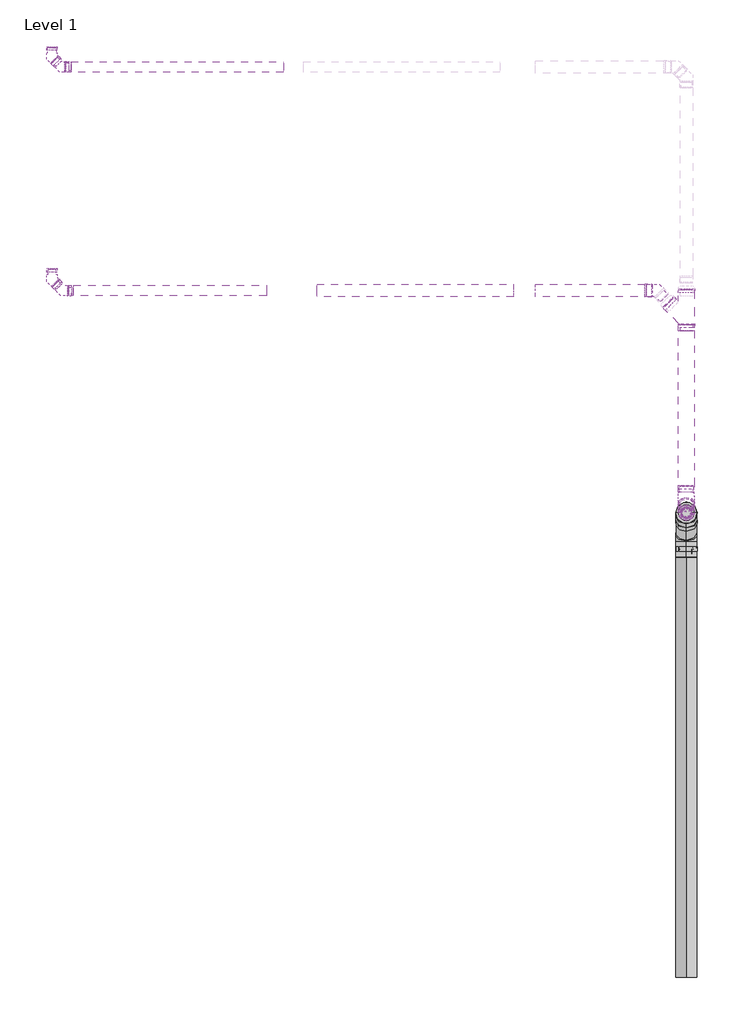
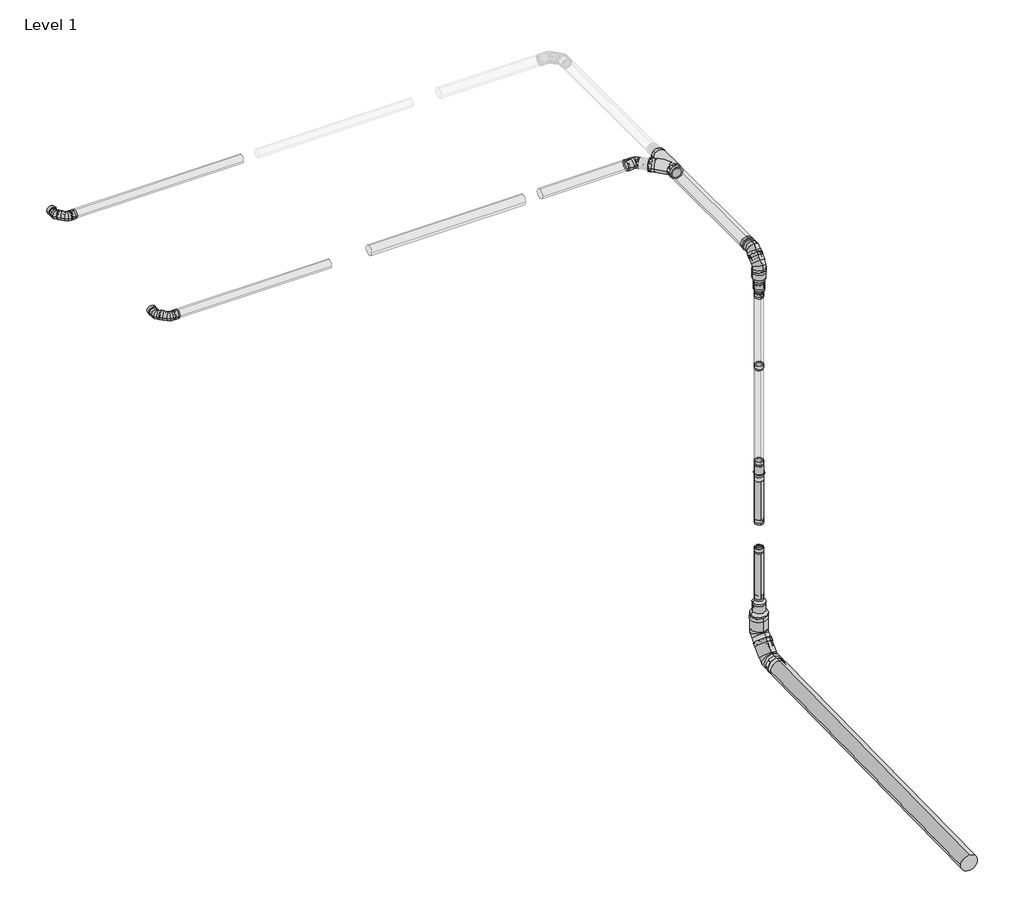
# One storey, part 1 of 4: 68 pipe fittings, 10 pipe segments.
"""IFC4 building model written with IfcOpenShell, lengths in millimetres."""

from ifc_helpers import new_model, si_unit, point, frame, frame_2d, origin, place, context, project, spatial, circle_curve, trimmed, segment, composite_curve, outline, extrude, transform, mapped, element, save
from components import double_bend_3e9cfc50, double_bend_64b3920a, double_bend_6fd856f4, equal_f502bca4, std_98267aa1, std_b06a406c, std_nested_457d7e35, std_nested_42e1da43, std_nested_0b312e5a, std_nested_a7162979, std_nested_3dcc5080, std_nested_46ab66b3, std_nested_9446fb41, std_nested_ff61fb87, std_nested_f8058470, std_nested_a1955cf2, std_nested_11fffc4d, std_nested_bf630df5, std_nested_90d89c33, std_nested_c8d892e3, std_nested_4c6f7b31, std_nested_d6aa968b, std_nested_7b649233, std_nested_0b754541, std_nested_c6ab956b, std_nested_eab692b6, std_nested_b89ce39c, std_nested_ddf6da25, std_nested_2c747ea0, std_nested_bd9adc5b, std_nested_d6c17223, std_nested_f2eee662, std_nested_7e47c5b0, std_nested_5f0271a8, std_nested_e47e38a7, std_nested_4907b57b, with_clamp_eb68ef93

model = new_model("IFC4")

# Units and contexts
model_context = context("Model", 3, world=origin())
ifc_project = project(units=[si_unit("LENGTHUNIT", "METRE", prefix="MILLI")], contexts=[model_context])

# Site, building, storey
site = spatial("IfcSite", under=ifc_project)
building = spatial("IfcBuilding", under=site)
storey = spatial("IfcBuildingStorey", under=building, Name="Level 1", Elevation=0.0)

# Pipe fittings
placement = place(None, origin())
double_bend_shape = double_bend_3e9cfc50(model_context)
element("IfcPipeFitting", 1, ObjectType="PIF_ST_UN_GM-X compound pipe multi-bend_ACO : double bend", at=placement, inside=storey, context=model_context, shape_type="MappedRepresentation", body=[
    mapped(double_bend_shape, transform((-17814.684142, 5223.6615366, 6367.4522786), x_axis=(0.0, -1.0, 0.0), y_axis=(1.0, 0.0, 0.0), z_axis=(0.0, 0.0, 1.0))),
])
double_bend_2_shape = double_bend_64b3920a(model_context)
element("IfcPipeFitting", 2, ObjectType="PIF_ST_UN_GM-X compound pipe multi-bend_ACO : double bend", at=placement, inside=storey, context=model_context, shape_type="MappedRepresentation", body=[
    mapped(double_bend_2_shape, transform((-17814.684142, 2334.1079251, 6367.4522786), x_axis=(0.0, -1.0, 0.0), y_axis=(1.0, 0.0, 0.0), z_axis=(0.0, 0.0, 1.0))),
])
double_bend_3_shape = double_bend_6fd856f4(model_context)
element("IfcPipeFitting", 3, ObjectType="PIF_ST_UN_GM-X compound pipe multi-bend_ACO : double bend", at=placement, inside=storey, context=model_context, shape_type="MappedRepresentation", body=[
    mapped(double_bend_3_shape, transform((-9614.684142, -535.228078, -500.0), x_axis=(0.0, 0.0, -1.0), y_axis=(0.0, -1.0, 0.0), z_axis=(-1.0, 0.0, 0.0))),
])
equal_shape = equal_f502bca4(model_context)
element("IfcPipeFitting", 4, ObjectType="PIF_ST_UN_GM-X compound pipe multi-tee_ACO : equal", at=placement, inside=storey, context=model_context, shape_type="MappedRepresentation", body=[
    mapped(equal_shape, transform((-9614.684142, 1952.2702632, 6367.4522786), x_axis=(0.0, 1.0, 0.0), y_axis=(-1.0, 0.0, 0.0), z_axis=(0.0, 0.0, 1.0))),
])
std_shape = std_98267aa1(model_context)
element("IfcPipeFitting", 5, ObjectType="PIF_ST_UN_GM-X compound pipe multi-optimiser (transition)_ACO : std", at=placement, inside=storey, context=model_context, shape_type="MappedRepresentation", body=[
    mapped(std_shape, transform((-9614.684142, -535.228078, 5629.2270551), x_axis=(0.0, 0.0, 1.0), y_axis=(1.0, 0.0, 0.0), z_axis=(0.0, 1.0, 0.0))),
])
std_2_shape = std_b06a406c(model_context)
element("IfcPipeFitting", 6, ObjectType="PIF_ST_UN_GM-X compound pipe down-pipe (union)_ACO : std", at=placement, inside=storey, context=model_context, shape_type="MappedRepresentation", body=[
    mapped(std_2_shape, transform((-9614.684142, -535.228078, 2703.7674915), x_axis=(0.0, 0.0, 1.0), y_axis=(-1.0, 0.0, 0.0), z_axis=(0.0, -1.0, 0.0))),
])
std_nested_shape = std_nested_457d7e35(model_context)
element("IfcPipeFitting", 7, ObjectType="ZZZ_do not use_PIF_GEN_WPB_GM-X (compound) pipe seal_ACO : std (nested)", at=placement, inside=storey, context=model_context, shape_type="MappedRepresentation", body=[
    mapped(std_nested_shape, transform((-17564.8191349, 5223.6615366, 6367.4522786), x_axis=(0.0, -1.0, 0.0), y_axis=(0.0, 0.0, -1.0), z_axis=(1.0, 0.0, 0.0))),
])
element("IfcPipeFitting", 8, ObjectType="ZZZ_do not use_PIF_GEN_WPB_GM-X (compound) pipe seal_ACO : std (nested)", at=placement, inside=storey, context=model_context, shape_type="MappedRepresentation", body=[
    mapped(std_nested_shape, transform((-9614.684142, -535.228078, 4373.7890494), x_axis=(1.0, 0.0, 0.0), y_axis=(0.0, -1.0, 0.0), z_axis=(0.0, 0.0, -1.0))),
])
element("IfcPipeFitting", 9, ObjectType="ZZZ_do not use_PIF_GEN_WPB_GM-X (compound) pipe seal_ACO : std (nested)", at=placement, inside=storey, context=model_context, shape_type="MappedRepresentation", body=[
    mapped(std_nested_shape, transform((-9614.684142, -535.228078, 2443.7674915), x_axis=(-1.0, 0.0, 0.0), y_axis=(0.0, 1.0, 0.0), z_axis=(0.0, 0.0, -1.0))),
])
element("IfcPipeFitting", 10, ObjectType="ZZZ_do not use_PIF_GEN_WPB_GM-X (compound) pipe seal_ACO : std (nested)", at=placement, inside=storey, context=model_context, shape_type="MappedRepresentation", body=[
    mapped(std_nested_shape, transform((-9614.684142, -535.228078, 1180.0371081), x_axis=(1.0, 0.0, 0.0), y_axis=(0.0, -1.0, 0.0), z_axis=(0.0, 0.0, -1.0))),
])
element("IfcPipeFitting", 11, ObjectType="ZZZ_do not use_PIF_GEN_WPB_GM-X (compound) pipe seal_ACO : std (nested)", at=placement, inside=storey, context=model_context, shape_type="MappedRepresentation", body=[
    mapped(std_nested_shape, transform((-9614.684142, -535.228078, 5629.2270551), x_axis=(0.0, -1.0, 0.0), y_axis=(-1.0, 0.0, 0.0), z_axis=(0.0, 0.0, -1.0))),
])
std_nested_2_shape = std_nested_42e1da43(model_context)
element("IfcPipeFitting", 12, ObjectType="ZZZ_do not use_PIF_GEN_WPB_GM-X (compound) pipe seal_ACO : std (nested)", at=placement, inside=storey, context=model_context, shape_type="MappedRepresentation", body=[
    mapped(std_nested_2_shape, transform((-17814.684142, 5473.5265437, 6367.4522786), x_axis=(1.0, 0.0, 0.0), y_axis=(0.0, 0.0, -1.0), z_axis=(0.0, 1.0, 0.0))),
])
element("IfcPipeFitting", 13, ObjectType="ZZZ_do not use_PIF_GEN_WPB_GM-X (compound) pipe seal_ACO : std (nested)", at=placement, inside=storey, context=model_context, shape_type="MappedRepresentation", body=[
    mapped(std_nested_2_shape, transform((-17776.5003758, 5311.3427775, 6367.4522786), x_axis=(0.707106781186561, 0.707106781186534, 0.0), y_axis=(0.0, 0.0, -1.0), z_axis=(-0.707106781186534, 0.707106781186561, 0.0))),
])
element("IfcPipeFitting", 14, ObjectType="ZZZ_do not use_PIF_GEN_WPB_GM-X (compound) pipe seal_ACO : std (nested)", at=placement, inside=storey, context=model_context, shape_type="MappedRepresentation", body=[
    mapped(std_nested_2_shape, transform((-9614.684142, -535.228078, 2773.7674915), x_axis=(1.0, 0.0, 0.0), y_axis=(0.0, 1.0, 0.0), z_axis=(0.0, 0.0, 1.0))),
])
element("IfcPipeFitting", 15, ObjectType="ZZZ_do not use_PIF_GEN_WPB_GM-X (compound) pipe seal_ACO : std (nested)", at=placement, inside=storey, context=model_context, shape_type="MappedRepresentation", body=[
    mapped(std_nested_2_shape, transform((-9614.684142, -535.228078, 1760.0371081), x_axis=(-1.0, 0.0, 0.0), y_axis=(0.0, -1.0, 0.0), z_axis=(0.0, 0.0, 1.0))),
])
std_nested_3_shape = std_nested_0b312e5a(model_context)
element("IfcPipeFitting", 16, ObjectType="ZZZ_do not use_PIF_GEN_WPB_GM-X (compound) pipe seal_ACO : std (nested)", at=placement, inside=storey, context=model_context, shape_type="MappedRepresentation", body=[
    mapped(std_nested_3_shape, transform((-9614.684142, -1105.7594865, -509.9586628), x_axis=(0.0, 0.017452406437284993, -0.9998476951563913), y_axis=(1.0000000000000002, 0.0, 0.0), z_axis=(0.0, -0.9998476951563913, -0.017452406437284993))),
])
std_nested_4_shape = std_nested_a7162979(model_context)
element("IfcPipeFitting", 17, ObjectType="ZZZ_do not use_PIF_GEN_WPB_GM-X (compound) pipe seal_ACO : std (nested)", at=placement, inside=storey, context=model_context, shape_type="MappedRepresentation", body=[
    mapped(std_nested_4_shape, transform((-9614.684142, -535.228078, 85.6183164), x_axis=(0.0, -1.0, 0.0), y_axis=(1.0, 0.0, 0.0), z_axis=(0.0, 0.0, 1.0))),
])
element("IfcPipeFitting", 18, ObjectType="ZZZ_do not use_PIF_GEN_WPB_GM-X (compound) pipe seal_ACO : std (nested)", at=placement, inside=storey, context=model_context, shape_type="MappedRepresentation", body=[
    mapped(std_nested_4_shape, transform((-9614.684142, -639.102831, -303.2854002), x_axis=(0.0, -0.7132504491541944, 0.7009092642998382), y_axis=(1.0000000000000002, 0.0, 0.0), z_axis=(0.0, 0.7009092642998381, 0.7132504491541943))),
])
std_nested_5_shape = std_nested_3dcc5080(model_context)
element("IfcPipeFitting", 19, ObjectType="ZZZ_do not use_PIF_GEN_WPB_GM-X (compound) pipe seal_ACO : std (nested)", at=placement, inside=storey, context=model_context, shape_type="MappedRepresentation", body=[
    mapped(std_nested_5_shape, transform((-9614.684142, 2342.2702632, 6367.4522786), x_axis=(1.0, 0.0, 0.0), y_axis=(0.0, 0.0, -1.0), z_axis=(0.0, 1.0, 0.0))),
])
element("IfcPipeFitting", 20, ObjectType="ZZZ_do not use_PIF_GEN_WPB_GM-X (compound) pipe seal_ACO : std (nested)", at=placement, inside=storey, context=model_context, shape_type="MappedRepresentation", body=[
    mapped(std_nested_5_shape, transform((-9840.9583119, 2178.5444332, 6367.4522786), x_axis=(0.7071067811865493, 0.7071067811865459, 0.0), y_axis=(0.0, 0.0, -1.0000000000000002), z_axis=(-0.7071067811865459, 0.7071067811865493, 0.0))),
])
element("IfcPipeFitting", 21, ObjectType="ZZZ_do not use_PIF_GEN_WPB_GM-X (compound) pipe seal_ACO : std (nested)", at=placement, inside=storey, context=model_context, shape_type="MappedRepresentation", body=[
    mapped(std_nested_5_shape, transform((-9614.684142, -192.0028546, 6367.4522786), x_axis=(0.0, 0.0, -1.0), y_axis=(-1.0, 0.0, 0.0), z_axis=(0.0, 1.0, 0.0))),
])
element("IfcPipeFitting", 22, ObjectType="ZZZ_do not use_PIF_GEN_WPB_GM-X (compound) pipe seal_ACO : std (nested)", at=placement, inside=storey, context=model_context, shape_type="MappedRepresentation", body=[
    mapped(std_nested_5_shape, transform((-9614.684142, -418.131195, 6306.9239381), x_axis=(0.0, 0.707106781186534, -0.707106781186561), y_axis=(-1.0, 0.0, 0.0), z_axis=(0.0, 0.707106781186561, 0.707106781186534))),
])
element("IfcPipeFitting", 23, ObjectType="ZZZ_do not use_PIF_GEN_WPB_GM-X (compound) pipe seal_ACO : std (nested)", at=placement, inside=storey, context=model_context, shape_type="MappedRepresentation", body=[
    mapped(std_nested_5_shape, transform((-9614.684142, -535.228078, 6104.2270551), x_axis=(-1.0, 0.0, 0.0), y_axis=(0.0, -1.0, 0.0), z_axis=(0.0, 0.0, 1.0))),
])
std_nested_6_shape = std_nested_46ab66b3(model_context)
element("IfcPipeFitting", 24, ObjectType="ZZZ_do not use_PIF_GEN_WPB_GM-X (compound) pipe seal_ACO : std (nested)", at=placement, inside=storey, context=model_context, shape_type="MappedRepresentation", body=[
    mapped(std_nested_6_shape, transform((-10131.5218038, 2334.1079251, 6367.4522786), x_axis=(0.0, 1.0, 0.0), y_axis=(0.0, 0.0, -1.0000000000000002), z_axis=(-1.0, 0.0, 0.0))),
])
element("IfcPipeFitting", 25, ObjectType="ZZZ_do not use_PIF_GEN_WPB_GM-X (compound) pipe seal_ACO : std (nested)", at=placement, inside=storey, context=model_context, shape_type="MappedRepresentation", body=[
    mapped(std_nested_6_shape, transform((-9614.684142, -535.228078, 5869.2270551), x_axis=(-1.0, 0.0, 0.0), y_axis=(0.0, -1.0, 0.0), z_axis=(0.0, 0.0, 1.0))),
])
std_nested_7_shape = std_nested_9446fb41(model_context)
element("IfcPipeFitting", 26, ObjectType="ZZZ_do not use_PIF_GEN_WPB_GM-X (compound) pipe seal_ACO : std (nested)", at=placement, inside=storey, context=model_context, shape_type="MappedRepresentation", body=[
    mapped(std_nested_7_shape, transform((-9614.684142, 1812.2702632, 6367.4522786), x_axis=(0.0, 0.0, -1.0), y_axis=(1.0, 0.0, 0.0), z_axis=(0.0, -1.0, 0.0))),
])
std_nested_8_shape = std_nested_ff61fb87(model_context)
element("IfcPipeFitting", 27, ObjectType="ZZZ_do not use_PIF_ST_WPB_GM-X compound pipe clamp_ACO : std (nested)", at=placement, inside=storey, context=model_context, shape_type="MappedRepresentation", body=[
    mapped(std_nested_8_shape, transform((-17564.8191349, 5223.6615366, 6367.4522786), x_axis=(0.0, -1.0, 0.0), y_axis=(0.0, 0.0, -1.0), z_axis=(1.0, 0.0, 0.0))),
])
element("IfcPipeFitting", 28, ObjectType="ZZZ_do not use_PIF_ST_WPB_GM-X compound pipe clamp_ACO : std (nested)", at=placement, inside=storey, context=model_context, shape_type="MappedRepresentation", body=[
    mapped(std_nested_8_shape, transform((-9614.684142, -535.228078, 4373.7890494), x_axis=(1.0, 0.0, 0.0), y_axis=(0.0, -1.0, 0.0), z_axis=(0.0, 0.0, -1.0))),
])
element("IfcPipeFitting", 29, ObjectType="ZZZ_do not use_PIF_ST_WPB_GM-X compound pipe clamp_ACO : std (nested)", at=placement, inside=storey, context=model_context, shape_type="MappedRepresentation", body=[
    mapped(std_nested_8_shape, transform((-9614.684142, -535.228078, 1180.0371081), x_axis=(1.0, 0.0, 0.0), y_axis=(0.0, -1.0, 0.0), z_axis=(0.0, 0.0, -1.0))),
])
element("IfcPipeFitting", 30, ObjectType="ZZZ_do not use_PIF_ST_WPB_GM-X compound pipe clamp_ACO : std (nested)", at=placement, inside=storey, context=model_context, shape_type="MappedRepresentation", body=[
    mapped(std_nested_8_shape, transform((-9614.684142, -535.228078, 5629.2270551), x_axis=(0.0, -1.0, 0.0), y_axis=(-1.0, 0.0, 0.0), z_axis=(0.0, 0.0, -1.0))),
])
element("IfcPipeFitting", 31, ObjectType="ZZZ_do not use_PIF_GEN_WPB_GM-X (compound) pipe seal_ACO : std (nested)", at=placement, inside=storey, context=model_context, shape_type="MappedRepresentation", body=[
    mapped(std_nested_5_shape, transform((-9614.684142, -535.228078, 290.6183164), x_axis=(1.0, 0.0, 0.0), y_axis=(0.0, 1.0, 0.0), z_axis=(0.0, 0.0, 1.0))),
])
element("IfcPipeFitting", 32, ObjectType="ZZZ_do not use_PIF_GEN_WPB_GM-X (compound) pipe seal_ACO : std (nested)", at=placement, inside=storey, context=model_context, shape_type="MappedRepresentation", body=[
    mapped(std_nested_2_shape, transform((-9614.684142, -535.228078, 460.6183164), x_axis=(1.0, 0.0, 0.0), y_axis=(0.0, 1.0, 0.0), z_axis=(0.0, 0.0, 1.0))),
])
std_nested_9_shape = std_nested_f8058470(model_context)
element("IfcPipeFitting", 33, ObjectType="ZZZ_do not use_PIF_GEN_WPB_GM-X (compound) pipe seal_ACO : std (nested)", at=placement, inside=storey, context=model_context, shape_type="MappedRepresentation", body=[
    mapped(std_nested_9_shape, transform((-17814.684142, 2607.2313628, 6367.4522786), x_axis=(1.0, 0.0, 0.0), y_axis=(0.0, 0.0, -1.0), z_axis=(0.0, 1.0, 0.0))),
])
element("IfcPipeFitting", 34, ObjectType="ZZZ_do not use_PIF_GEN_WPB_GM-X (compound) pipe seal_ACO : std (nested)", at=placement, inside=storey, context=model_context, shape_type="MappedRepresentation", body=[
    mapped(std_nested_9_shape, transform((-17764.3381391, 2426.38536, 6367.4522786), x_axis=(0.707106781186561, 0.707106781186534, 0.0), y_axis=(0.0, 0.0, -1.0), z_axis=(-0.707106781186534, 0.707106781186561, 0.0))),
])
std_nested_10_shape = std_nested_a1955cf2(model_context)
element("IfcPipeFitting", 35, ObjectType="ZZZ_do not use_PIF_GEN_WPB_GM-X (compound) pipe seal_ACO : std (nested)", at=placement, inside=storey, context=model_context, shape_type="MappedRepresentation", body=[
    mapped(std_nested_10_shape, transform((-17540.8607042, 2334.1079251, 6367.4522786), x_axis=(0.0, -1.0, 0.0), y_axis=(0.0, 0.0, -1.0), z_axis=(1.0, 0.0, 0.0))),
])
std_nested_11_shape = std_nested_11fffc4d(model_context)
element("IfcPipeFitting", 36, ObjectType="ZZZ_do not use_PIF_ST_WPB_GM-X compound pipe clamp_ACO : std (nested)", at=placement, inside=storey, context=model_context, shape_type="MappedRepresentation", body=[
    mapped(std_nested_11_shape, transform((-17540.8607042, 2334.1079251, 6367.4522786), x_axis=(0.0, -1.0, 0.0), y_axis=(0.0, 0.0, -1.0), z_axis=(1.0, 0.0, 0.0))),
])
std_nested_12_shape = std_nested_bf630df5(model_context)
element("IfcPipeFitting", 37, ObjectType="ZZZ_do not use_PIF_ST_WPB_GM-X compound pipe clamp_ACO : std (nested)", at=placement, inside=storey, context=model_context, shape_type="MappedRepresentation", body=[
    mapped(std_nested_12_shape, transform((-17814.684142, 5473.5265437, 6367.4522786), x_axis=(1.0, 0.0, 0.0), y_axis=(0.0, 0.0, -1.0), z_axis=(0.0, 1.0, 0.0))),
])
element("IfcPipeFitting", 38, ObjectType="ZZZ_do not use_PIF_ST_WPB_GM-X compound pipe clamp_ACO : std (nested)", at=placement, inside=storey, context=model_context, shape_type="MappedRepresentation", body=[
    mapped(std_nested_12_shape, transform((-17776.5003758, 5311.3427775, 6367.4522786), x_axis=(0.707106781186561, 0.707106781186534, 0.0), y_axis=(0.0, 0.0, -1.0), z_axis=(-0.707106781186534, 0.707106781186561, 0.0))),
])
element("IfcPipeFitting", 39, ObjectType="ZZZ_do not use_PIF_ST_WPB_GM-X compound pipe clamp_ACO : std (nested)", at=placement, inside=storey, context=model_context, shape_type="MappedRepresentation", body=[
    mapped(std_nested_12_shape, transform((-9614.684142, -535.228078, 2773.7674915), x_axis=(1.0, 0.0, 0.0), y_axis=(0.0, 1.0, 0.0), z_axis=(0.0, 0.0, 1.0))),
])
element("IfcPipeFitting", 40, ObjectType="ZZZ_do not use_PIF_ST_WPB_GM-X compound pipe clamp_ACO : std (nested)", at=placement, inside=storey, context=model_context, shape_type="MappedRepresentation", body=[
    mapped(std_nested_12_shape, transform((-9614.684142, -535.228078, 1760.0371081), x_axis=(-1.0, 0.0, 0.0), y_axis=(0.0, -1.0, 0.0), z_axis=(0.0, 0.0, 1.0))),
])
element("IfcPipeFitting", 41, ObjectType="ZZZ_do not use_PIF_ST_WPB_GM-X compound pipe clamp_ACO : std (nested)", at=placement, inside=storey, context=model_context, shape_type="MappedRepresentation", body=[
    mapped(std_nested_12_shape, transform((-17814.684142, 2607.2313628, 6367.4522786), x_axis=(1.0, 0.0, 0.0), y_axis=(0.0, 0.0, -1.0), z_axis=(0.0, 1.0, 0.0))),
])
element("IfcPipeFitting", 42, ObjectType="ZZZ_do not use_PIF_ST_WPB_GM-X compound pipe clamp_ACO : std (nested)", at=placement, inside=storey, context=model_context, shape_type="MappedRepresentation", body=[
    mapped(std_nested_12_shape, transform((-17764.3381391, 2426.38536, 6367.4522786), x_axis=(0.707106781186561, 0.707106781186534, 0.0), y_axis=(0.0, 0.0, -1.0), z_axis=(-0.707106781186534, 0.707106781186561, 0.0))),
])
std_nested_13_shape = std_nested_90d89c33(model_context)
element("IfcPipeFitting", 43, ObjectType="ZZZ_do not use_PIF_ST_WPB_GM-X compound pipe clamp_ACO : std (nested)", at=placement, inside=storey, context=model_context, shape_type="MappedRepresentation", body=[
    mapped(std_nested_13_shape, transform((-10131.5218038, 2334.1079251, 6367.4522786), x_axis=(0.0, 1.0, 0.0), y_axis=(0.0, 0.0, -1.0000000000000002), z_axis=(-1.0, 0.0, 0.0))),
])
element("IfcPipeFitting", 44, ObjectType="ZZZ_do not use_PIF_ST_WPB_GM-X compound pipe clamp_ACO : std (nested)", at=placement, inside=storey, context=model_context, shape_type="MappedRepresentation", body=[
    mapped(std_nested_13_shape, transform((-9614.684142, -535.228078, 5869.2270551), x_axis=(-1.0, 0.0, 0.0), y_axis=(0.0, -1.0, 0.0), z_axis=(0.0, 0.0, 1.0))),
])
std_nested_14_shape = std_nested_c8d892e3(model_context)
element("IfcPipeFitting", 45, ObjectType="ZZZ_do not use_PIF_ST_WPB_GM-X compound pipe clamp_ACO : std (nested)", at=placement, inside=storey, context=model_context, shape_type="MappedRepresentation", body=[
    mapped(std_nested_14_shape, transform((-9614.684142, -535.228078, 85.6183164), x_axis=(0.0, -1.0, 0.0), y_axis=(1.0, 0.0, 0.0), z_axis=(0.0, 0.0, 1.0))),
])
element("IfcPipeFitting", 46, ObjectType="ZZZ_do not use_PIF_ST_WPB_GM-X compound pipe clamp_ACO : std (nested)", at=placement, inside=storey, context=model_context, shape_type="MappedRepresentation", body=[
    mapped(std_nested_14_shape, transform((-9614.684142, -639.102831, -303.2854002), x_axis=(0.0, -0.7132504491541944, 0.7009092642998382), y_axis=(1.0000000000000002, 0.0, 0.0), z_axis=(0.0, 0.7009092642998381, 0.7132504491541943))),
])
std_nested_15_shape = std_nested_4c6f7b31(model_context)
element("IfcPipeFitting", 47, ObjectType="ZZZ_do not use_PIF_ST_WPB_GM-X compound pipe clamp_ACO : std (nested)", at=placement, inside=storey, context=model_context, shape_type="MappedRepresentation", body=[
    mapped(std_nested_15_shape, transform((-9614.684142, -1105.7594865, -509.9586628), x_axis=(0.0, 0.017452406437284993, -0.9998476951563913), y_axis=(1.0000000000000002, 0.0, 0.0), z_axis=(0.0, -0.9998476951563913, -0.017452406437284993))),
])
std_nested_16_shape = std_nested_d6aa968b(model_context)
element("IfcPipeFitting", 48, ObjectType="ZZZ_do not use_PIF_ST_WPB_GM-X compound pipe clamp_ACO : std (nested)", at=placement, inside=storey, context=model_context, shape_type="MappedRepresentation", body=[
    mapped(std_nested_16_shape, transform((-9614.684142, 2342.2702632, 6367.4522786), x_axis=(1.0, 0.0, 0.0), y_axis=(0.0, 0.0, -1.0), z_axis=(0.0, 1.0, 0.0))),
])
element("IfcPipeFitting", 49, ObjectType="ZZZ_do not use_PIF_ST_WPB_GM-X compound pipe clamp_ACO : std (nested)", at=placement, inside=storey, context=model_context, shape_type="MappedRepresentation", body=[
    mapped(std_nested_16_shape, transform((-9840.9583119, 2178.5444332, 6367.4522786), x_axis=(0.7071067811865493, 0.7071067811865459, 0.0), y_axis=(0.0, 0.0, -1.0000000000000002), z_axis=(-0.7071067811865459, 0.7071067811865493, 0.0))),
])
element("IfcPipeFitting", 50, ObjectType="ZZZ_do not use_PIF_ST_WPB_GM-X compound pipe clamp_ACO : std (nested)", at=placement, inside=storey, context=model_context, shape_type="MappedRepresentation", body=[
    mapped(std_nested_16_shape, transform((-9614.684142, -192.0028546, 6367.4522786), x_axis=(0.0, 0.0, -1.0), y_axis=(-1.0, 0.0, 0.0), z_axis=(0.0, 1.0, 0.0))),
])
element("IfcPipeFitting", 51, ObjectType="ZZZ_do not use_PIF_ST_WPB_GM-X compound pipe clamp_ACO : std (nested)", at=placement, inside=storey, context=model_context, shape_type="MappedRepresentation", body=[
    mapped(std_nested_16_shape, transform((-9614.684142, -418.131195, 6306.9239381), x_axis=(0.0, 0.707106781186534, -0.707106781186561), y_axis=(-1.0, 0.0, 0.0), z_axis=(0.0, 0.707106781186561, 0.707106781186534))),
])
element("IfcPipeFitting", 52, ObjectType="ZZZ_do not use_PIF_ST_WPB_GM-X compound pipe clamp_ACO : std (nested)", at=placement, inside=storey, context=model_context, shape_type="MappedRepresentation", body=[
    mapped(std_nested_16_shape, transform((-9614.684142, -535.228078, 6104.2270551), x_axis=(-1.0, 0.0, 0.0), y_axis=(0.0, -1.0, 0.0), z_axis=(0.0, 0.0, 1.0))),
])
std_nested_17_shape = std_nested_7b649233(model_context)
element("IfcPipeFitting", 53, ObjectType="ZZZ_do not use_PIF_ST_WPB_GM-X compound pipe clamp_ACO : std (nested)", at=placement, inside=storey, context=model_context, shape_type="MappedRepresentation", body=[
    mapped(std_nested_17_shape, transform((-9614.684142, 1812.2702632, 6367.4522786), x_axis=(0.0, 0.0, -1.0), y_axis=(1.0, 0.0, 0.0), z_axis=(0.0, -1.0, 0.0))),
])
std_nested_18_shape = std_nested_0b754541(model_context)
element("IfcPipeFitting", 54, ObjectType="ZZZ_do not use_PIF_ST_WPB_GM-X compound pipe bend_ACO : std (nested)", at=placement, inside=storey, context=model_context, shape_type="MappedRepresentation", body=[
    mapped(std_nested_18_shape, transform((-9996.5218038, 2334.1079251, 6367.4522786), x_axis=(-0.7071067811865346, 0.7071067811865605, 0.0), y_axis=(-0.7071067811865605, -0.7071067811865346, 0.0), z_axis=(0.0, 0.0, 1.0))),
])
std_nested_19_shape = std_nested_c6ab956b(model_context)
element("IfcPipeFitting", 55, ObjectType="ZZZ_do not use_PIF_ST_WPB_GM-X compound pipe bend_ACO : std (nested)", at=placement, inside=storey, context=model_context, shape_type="MappedRepresentation", body=[
    mapped(std_nested_19_shape, transform((-17814.684142, 5349.5265437, 6367.4522786), x_axis=(0.0, -1.0, 0.0), y_axis=(1.0, 0.0, 0.0), z_axis=(0.0, 0.0, 1.0))),
])
std_nested_20_shape = std_nested_eab692b6(model_context)
element("IfcPipeFitting", 56, ObjectType="ZZZ_do not use_PIF_ST_WPB_GM-X compound pipe bend_ACO : std (nested)", at=placement, inside=storey, context=model_context, shape_type="MappedRepresentation", body=[
    mapped(std_nested_20_shape, transform((-17688.8191349, 5223.6615366, 6367.4522786), x_axis=(0.7071067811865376, -0.7071067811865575, 0.0), y_axis=(0.7071067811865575, 0.7071067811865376, 0.0), z_axis=(0.0, 0.0, 1.0))),
])
std_nested_21_shape = std_nested_b89ce39c(model_context)
element("IfcPipeFitting", 57, ObjectType="ZZZ_do not use_PIF_ST_WPB_GM-X compound pipe bend_ACO : std (nested)", at=placement, inside=storey, context=model_context, shape_type="MappedRepresentation", body=[
    mapped(std_nested_21_shape, transform((-17814.684142, 2476.7313628, 6367.4522786), x_axis=(0.0, -1.0, 0.0), y_axis=(1.0, 0.0, 0.0), z_axis=(0.0, 0.0, 1.0))),
])
std_nested_22_shape = std_nested_ddf6da25(model_context)
element("IfcPipeFitting", 58, ObjectType="ZZZ_do not use_PIF_ST_WPB_GM-X compound pipe bend_ACO : std (nested)", at=placement, inside=storey, context=model_context, shape_type="MappedRepresentation", body=[
    mapped(std_nested_22_shape, transform((-17672.0607042, 2334.1079251, 6367.4522786), x_axis=(0.7071067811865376, -0.7071067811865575, 0.0), y_axis=(0.7071067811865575, 0.7071067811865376, 0.0), z_axis=(0.0, 0.0, 1.0))),
])
std_nested_23_shape = std_nested_2c747ea0(model_context)
element("IfcPipeFitting", 59, ObjectType="ZZZ_do not use_PIF_ST_WPB_GM-X compound pipe bend_ACO : std (nested)", at=placement, inside=storey, context=model_context, shape_type="MappedRepresentation", body=[
    mapped(std_nested_23_shape, transform((-9614.684142, -357.6028546, 6367.4522786), x_axis=(0.0, -1.0, 0.0), y_axis=(0.0, 0.0, -1.0), z_axis=(1.0, 0.0, 0.0))),
])
std_nested_24_shape = std_nested_bd9adc5b(model_context)
element("IfcPipeFitting", 60, ObjectType="ZZZ_do not use_PIF_ST_WPB_GM-X compound pipe bend_ACO : std (nested)", at=placement, inside=storey, context=model_context, shape_type="MappedRepresentation", body=[
    mapped(std_nested_24_shape, transform((-9614.684142, -535.228078, 6189.8270551), x_axis=(0.0, -0.7071067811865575, -0.7071067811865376), y_axis=(0.0, 0.7071067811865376, -0.7071067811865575), z_axis=(1.0, 0.0, 0.0))),
])
std_nested_25_shape = std_nested_d6c17223(model_context)
element("IfcPipeFitting", 61, ObjectType="ZZZ_do not use_PIF_ST_WPB_GM-X compound pipe bend_ACO : std (nested)", at=placement, inside=storey, context=model_context, shape_type="MappedRepresentation", body=[
    mapped(std_nested_25_shape, transform((-9614.684142, -535.228078, -197.5816836), x_axis=(0.0, 0.0, -1.0), y_axis=(0.0, -1.0, 0.0), z_axis=(-1.0, 0.0, 0.0))),
])
element("IfcPipeFitting", 62, ObjectType="ZZZ_do not use_PIF_ST_WPB_GM-X compound pipe bend_ACO : std (nested)", at=placement, inside=storey, context=model_context, shape_type="MappedRepresentation", body=[
    mapped(std_nested_25_shape, transform((-9614.684142, -837.6003346, -505.2779274), x_axis=(0.0, -0.7009092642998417, -0.7132504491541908), y_axis=(0.0, -0.7132504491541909, 0.7009092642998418), z_axis=(-1.0000000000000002, 0.0, 0.0))),
])
std_nested_26_shape = std_nested_f2eee662(model_context)
element("IfcPipeFitting", 63, ObjectType="ZZZ_do not use_PIF_ST_WPB_GM-X compound pipe reducer_ACO : std (nested)", at=placement, inside=storey, context=model_context, shape_type="MappedRepresentation", body=[
    mapped(std_nested_26_shape, transform((-9614.684142, -535.228078, 210.6183164), x_axis=(0.0, 0.0, -1.0), y_axis=(-1.0, 0.0, 0.0), z_axis=(0.0, 1.0, 0.0))),
])
std_nested_27_shape = std_nested_7e47c5b0(model_context)
element("IfcPipeFitting", 64, ObjectType="ZZZ_do not use_PIF_ST_WPB_GM-X compound pipe reducer_ACO : std (nested)", at=placement, inside=storey, context=model_context, shape_type="MappedRepresentation", body=[
    mapped(std_nested_27_shape, transform((-9614.684142, -535.228078, -34.3816836), x_axis=(0.0, 0.0, -1.0), y_axis=(-1.0, 0.0, 0.0), z_axis=(0.0, 1.0, 0.0))),
])
std_nested_28_shape = std_nested_5f0271a8(model_context)
element("IfcPipeFitting", 65, ObjectType="ZZZ_do not use_PIF_ST_WPB_GM-X compound pipe optimiser_ACO : std (nested)", at=placement, inside=storey, context=model_context, shape_type="MappedRepresentation", body=[
    mapped(std_nested_28_shape, transform((-9614.684142, -535.228078, 6024.2270551), x_axis=(0.0, 0.0, -1.0), y_axis=(-1.0, 0.0, 0.0), z_axis=(0.0, 1.0, 0.0))),
])
std_nested_29_shape = std_nested_e47e38a7(model_context)
element("IfcPipeFitting", 66, ObjectType="ZZZ_do not use_PIF_ST_WPB_GM-X compound pipe optimiser_ACO : std (nested)", at=placement, inside=storey, context=model_context, shape_type="MappedRepresentation", body=[
    mapped(std_nested_29_shape, transform((-9614.684142, -535.228078, 5794.2270551), x_axis=(0.0, 0.0, -1.0), y_axis=(-1.0, 0.0, 0.0), z_axis=(0.0, 1.0, 0.0))),
])
std_nested_30_shape = std_nested_4907b57b(model_context)
element("IfcPipeFitting", 67, ObjectType="ZZZ_do not use_PIF_ST_WPB_GM-X compound pipe tee_ACO : std (nested)", at=placement, inside=storey, context=model_context, shape_type="MappedRepresentation", body=[
    mapped(std_nested_30_shape, transform((-9614.684142, 1952.2702632, 6367.4522786), x_axis=(0.0, 1.0, 0.0), y_axis=(-1.0, 0.0, 0.0), z_axis=(0.0, 0.0, 1.0))),
])
with_clamp_shape = with_clamp_eb68ef93(model_context)
element("IfcPipeFitting", 68, ObjectType="PIF_ST_UN_GM-X compound pipe pipe-end (union)_ACO : with clamp", at=placement, inside=storey, context=model_context, shape_type="MappedRepresentation", body=[
    mapped(with_clamp_shape, transform((-9614.684142, -535.228078, 4373.7890494), x_axis=(0.0, 0.0, -1.0), y_axis=(-1.0, 0.0, 0.0), z_axis=(0.0, 1.0, 0.0))),
])

# Pipe segments
element("IfcPipeSegment", 69, ObjectType="GM-X compound pipe", at=placement, inside=storey, context=model_context, shape_type="SweptSolid", body=[
    extrude(outline(composite_curve([segment(trimmed(circle_curve(frame_2d((6367.4522786, -9614.684142)), 102.0), [point((6367.4522786, -9716.684142))], [point((6265.4522786, -9614.684142))], False, "CARTESIAN"), True, "CONTINUOUS"), segment(trimmed(circle_curve(frame_2d((6367.4522786, -9614.684142)), 102.0), [point((6265.4522786, -9614.684142))], [point((6367.4522786, -9512.684142))], False, "CARTESIAN"), True, "CONTINUOUS"), segment(trimmed(circle_curve(frame_2d((6367.4522786, -9614.684142)), 102.0), [point((6367.4522786, -9512.684142))], [point((6469.4522786, -9614.684142))], False, "CARTESIAN"), True, "CONTINUOUS"), segment(trimmed(circle_curve(frame_2d((6367.4522786, -9614.684142)), 102.0), [point((6469.4522786, -9614.684142))], [point((6367.4522786, -9716.684142))], False, "CARTESIAN"), True, "CONTINUOUS")], self_intersect=False)), frame((0.0, -272.0028546, 0.0), z_axis=(0.0, 1.0, 0.0), x_axis=(0.0, 0.0, 1.0)), (0.0, 0.0, 1.0), 2084.2731178),
])
element("IfcPipeSegment", 70, ObjectType="GM-X compound pipe", at=placement, inside=storey, context=model_context, shape_type="SweptSolid", body=[
    extrude(outline(composite_curve([segment(trimmed(circle_curve(frame_2d((5223.6615366, 6367.4522786)), 67.0), [point((5290.6615366, 6367.4522786))], [point((5223.6615366, 6300.4522786))], False, "CARTESIAN"), True, "CONTINUOUS"), segment(trimmed(circle_curve(frame_2d((5223.6615366, 6367.4522786)), 67.0), [point((5223.6615366, 6300.4522786))], [point((5156.6615366, 6367.4522786))], False, "CARTESIAN"), True, "CONTINUOUS"), segment(trimmed(circle_curve(frame_2d((5223.6615366, 6367.4522786)), 67.0), [point((5156.6615366, 6367.4522786))], [point((5223.6615366, 6434.4522786))], False, "CARTESIAN"), True, "CONTINUOUS"), segment(trimmed(circle_curve(frame_2d((5223.6615366, 6367.4522786)), 67.0), [point((5223.6615366, 6434.4522786))], [point((5290.6615366, 6367.4522786))], False, "CARTESIAN"), True, "CONTINUOUS")], self_intersect=False)), frame((-17564.8191349, 0.0, 0.0), z_axis=(1.0, 0.0, 0.0), x_axis=(0.0, 1.0, 0.0)), (0.0, 0.0, 1.0), 2740.6482323),
])
element("IfcPipeSegment", 71, ObjectType="GM-X compound pipe", at=placement, inside=storey, context=model_context, shape_type="SweptSolid", body=[
    extrude(outline(composite_curve([segment(trimmed(circle_curve(frame_2d((2334.1079251, 6367.4522786)), 82.0), [point((2416.1079251, 6367.4522786))], [point((2334.1079251, 6285.4522786))], False, "CARTESIAN"), True, "CONTINUOUS"), segment(trimmed(circle_curve(frame_2d((2334.1079251, 6367.4522786)), 82.0), [point((2334.1079251, 6285.4522786))], [point((2252.1079251, 6367.4522786))], False, "CARTESIAN"), True, "CONTINUOUS"), segment(trimmed(circle_curve(frame_2d((2334.1079251, 6367.4522786)), 82.0), [point((2252.1079251, 6367.4522786))], [point((2334.1079251, 6449.4522786))], False, "CARTESIAN"), True, "CONTINUOUS"), segment(trimmed(circle_curve(frame_2d((2334.1079251, 6367.4522786)), 82.0), [point((2334.1079251, 6449.4522786))], [point((2416.1079251, 6367.4522786))], False, "CARTESIAN"), True, "CONTINUOUS")], self_intersect=False)), frame((-11564.8780094, 0.0, 0.0), z_axis=(1.0, 0.0, 0.0), x_axis=(0.0, 1.0, 0.0)), (0.0, 0.0, 1.0), 1508.3562056),
])
element("IfcPipeSegment", 72, ObjectType="GM-X compound pipe", at=placement, inside=storey, context=model_context, shape_type="SweptSolid", body=[
    extrude(outline(composite_curve([segment(trimmed(circle_curve(frame_2d((2334.1079251, 6367.4522786)), 67.0), [point((2401.1079251, 6367.4522786))], [point((2334.1079251, 6300.4522786))], False, "CARTESIAN"), True, "CONTINUOUS"), segment(trimmed(circle_curve(frame_2d((2334.1079251, 6367.4522786)), 67.0), [point((2334.1079251, 6300.4522786))], [point((2267.1079251, 6367.4522786))], False, "CARTESIAN"), True, "CONTINUOUS"), segment(trimmed(circle_curve(frame_2d((2334.1079251, 6367.4522786)), 67.0), [point((2267.1079251, 6367.4522786))], [point((2334.1079251, 6434.4522786))], False, "CARTESIAN"), True, "CONTINUOUS"), segment(trimmed(circle_curve(frame_2d((2334.1079251, 6367.4522786)), 67.0), [point((2334.1079251, 6434.4522786))], [point((2401.1079251, 6367.4522786))], False, "CARTESIAN"), True, "CONTINUOUS")], self_intersect=False)), frame((-17540.8607042, 0.0, 0.0), z_axis=(1.0, 0.0, 0.0), x_axis=(0.0, 1.0, 0.0)), (0.0, 0.0, 1.0), 2499.4657826),
])
element("IfcPipeSegment", 73, ObjectType="GM-X compound pipe", at=placement, inside=storey, context=model_context, shape_type="SweptSolid", body=[
    extrude(outline(composite_curve([segment(trimmed(circle_curve(frame_2d((2334.1079251, 6367.4522786)), 82.0), [point((2416.1079251, 6367.4522786))], [point((2334.1079251, 6285.4522786))], False, "CARTESIAN"), True, "CONTINUOUS"), segment(trimmed(circle_curve(frame_2d((2334.1079251, 6367.4522786)), 82.0), [point((2334.1079251, 6285.4522786))], [point((2252.1079251, 6367.4522786))], False, "CARTESIAN"), True, "CONTINUOUS"), segment(trimmed(circle_curve(frame_2d((2334.1079251, 6367.4522786)), 82.0), [point((2252.1079251, 6367.4522786))], [point((2334.1079251, 6449.4522786))], False, "CARTESIAN"), True, "CONTINUOUS"), segment(trimmed(circle_curve(frame_2d((2334.1079251, 6367.4522786)), 82.0), [point((2334.1079251, 6449.4522786))], [point((2416.1079251, 6367.4522786))], False, "CARTESIAN"), True, "CONTINUOUS")], self_intersect=False)), frame((-14386.3949216, 0.0, 0.0), z_axis=(1.0, 0.0, 0.0), x_axis=(0.0, 1.0, 0.0)), (0.0, 0.0, 1.0), 2536.5169122),
])
element("IfcPipeSegment", 74, ObjectType="GM-X compound pipe", at=placement, inside=storey, context=model_context, shape_type="SweptSolid", body=[
    extrude(outline(composite_curve([segment(trimmed(circle_curve(frame_2d((-9614.684142, -535.228078)), 67.0), [point((-9547.684142, -535.228078))], [point((-9614.684142, -602.228078))], False, "CARTESIAN"), True, "CONTINUOUS"), segment(trimmed(circle_curve(frame_2d((-9614.684142, -535.228078)), 67.0), [point((-9614.684142, -602.228078))], [point((-9681.684142, -535.228078))], False, "CARTESIAN"), True, "CONTINUOUS"), segment(trimmed(circle_curve(frame_2d((-9614.684142, -535.228078)), 67.0), [point((-9681.684142, -535.228078))], [point((-9614.684142, -468.228078))], False, "CARTESIAN"), True, "CONTINUOUS"), segment(trimmed(circle_curve(frame_2d((-9614.684142, -535.228078)), 67.0), [point((-9614.684142, -468.228078))], [point((-9547.684142, -535.228078))], False, "CARTESIAN"), True, "CONTINUOUS")], self_intersect=False)), frame((0.0, 0.0, 390.6183164), z_axis=(0.0, 0.0, 1.0), x_axis=(1.0, 0.0, 0.0)), (0.0, 0.0, 1.0), 789.4187917),
])
element("IfcPipeSegment", 75, ObjectType="GM-X compound pipe", at=placement, inside=storey, context=model_context, shape_type="SweptSolid", body=[
    extrude(outline(composite_curve([segment(trimmed(circle_curve(frame_2d((-9614.684142, -535.228078)), 67.0), [point((-9547.684142, -535.228078))], [point((-9614.684142, -602.228078))], False, "CARTESIAN"), True, "CONTINUOUS"), segment(trimmed(circle_curve(frame_2d((-9614.684142, -535.228078)), 67.0), [point((-9614.684142, -602.228078))], [point((-9681.684142, -535.228078))], False, "CARTESIAN"), True, "CONTINUOUS"), segment(trimmed(circle_curve(frame_2d((-9614.684142, -535.228078)), 67.0), [point((-9681.684142, -535.228078))], [point((-9614.684142, -468.228078))], False, "CARTESIAN"), True, "CONTINUOUS"), segment(trimmed(circle_curve(frame_2d((-9614.684142, -535.228078)), 67.0), [point((-9614.684142, -468.228078))], [point((-9547.684142, -535.228078))], False, "CARTESIAN"), True, "CONTINUOUS")], self_intersect=False)), frame((0.0, 0.0, 4373.7890494), z_axis=(0.0, 0.0, 1.0), x_axis=(1.0, 0.0, 0.0)), (0.0, 0.0, 1.0), 1255.4380058),
])
element("IfcPipeSegment", 76, ObjectType="GM-X compound pipe", at=placement, inside=storey, context=model_context, shape_type="SweptSolid", body=[
    extrude(outline(composite_curve([segment(trimmed(circle_curve(frame_2d((-9614.684142, -535.228078)), 67.0), [point((-9547.684142, -535.228078))], [point((-9614.684142, -602.228078))], False, "CARTESIAN"), True, "CONTINUOUS"), segment(trimmed(circle_curve(frame_2d((-9614.684142, -535.228078)), 67.0), [point((-9614.684142, -602.228078))], [point((-9681.684142, -535.228078))], False, "CARTESIAN"), True, "CONTINUOUS"), segment(trimmed(circle_curve(frame_2d((-9614.684142, -535.228078)), 67.0), [point((-9681.684142, -535.228078))], [point((-9614.684142, -468.228078))], False, "CARTESIAN"), True, "CONTINUOUS"), segment(trimmed(circle_curve(frame_2d((-9614.684142, -535.228078)), 67.0), [point((-9614.684142, -468.228078))], [point((-9547.684142, -535.228078))], False, "CARTESIAN"), True, "CONTINUOUS")], self_intersect=False)), frame((0.0, 0.0, 2703.7674915), z_axis=(0.0, 0.0, 1.0), x_axis=(1.0, 0.0, 0.0)), (0.0, 0.0, 1.0), 1670.0215578),
])
element("IfcPipeSegment", 77, ObjectType="GM-X compound pipe", at=placement, inside=storey, context=model_context, shape_type="SweptSolid", body=[
    extrude(outline(composite_curve([segment(trimmed(circle_curve(frame_2d((-9614.684142, -535.228078)), 67.0), [point((-9547.684142, -535.228078))], [point((-9614.684142, -602.228078))], False, "CARTESIAN"), True, "CONTINUOUS"), segment(trimmed(circle_curve(frame_2d((-9614.684142, -535.228078)), 67.0), [point((-9614.684142, -602.228078))], [point((-9681.684142, -535.228078))], False, "CARTESIAN"), True, "CONTINUOUS"), segment(trimmed(circle_curve(frame_2d((-9614.684142, -535.228078)), 67.0), [point((-9681.684142, -535.228078))], [point((-9614.684142, -468.228078))], False, "CARTESIAN"), True, "CONTINUOUS"), segment(trimmed(circle_curve(frame_2d((-9614.684142, -535.228078)), 67.0), [point((-9614.684142, -468.228078))], [point((-9547.684142, -535.228078))], False, "CARTESIAN"), True, "CONTINUOUS")], self_intersect=False)), frame((0.0, 0.0, 1690.0371081), z_axis=(0.0, 0.0, 1.0), x_axis=(1.0, 0.0, 0.0)), (0.0, 0.0, 1.0), 753.7303834),
])
element("IfcPipeSegment", 78, ObjectType="GM-X compound pipe", at=placement, inside=storey, context=model_context, shape_type="SweptSolid", body=[
    extrude(outline(composite_curve([segment(trimmed(circle_curve(frame_2d((0.0, -136.5)), 136.5), [point((-136.5, -136.5))], [point((0.0, 0.0))], False, "CARTESIAN"), True, "CONTINUOUS"), segment(trimmed(circle_curve(frame_2d((0.0, -136.5)), 136.5), [point((0.0, 0.0))], [point((136.5, -136.5))], False, "CARTESIAN"), True, "CONTINUOUS"), segment(trimmed(circle_curve(frame_2d((0.0, -136.5)), 136.5), [point((136.5, -136.5))], [point((0.0, -273.0))], False, "CARTESIAN"), True, "CONTINUOUS"), segment(trimmed(circle_curve(frame_2d((0.0, -136.5)), 136.5), [point((0.0, -273.0))], [point((-136.5, -136.5))], False, "CARTESIAN"), True, "CONTINUOUS")], self_intersect=False)), frame((-9614.684142, -6531.9319955, -741.193649), z_axis=(0.0, 0.9998476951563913, 0.017452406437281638), x_axis=(1.0, 0.0, 0.0)), (0.0, 0.0, 1.0), 5429.3816836),
])

save(model, "model.ifc")
